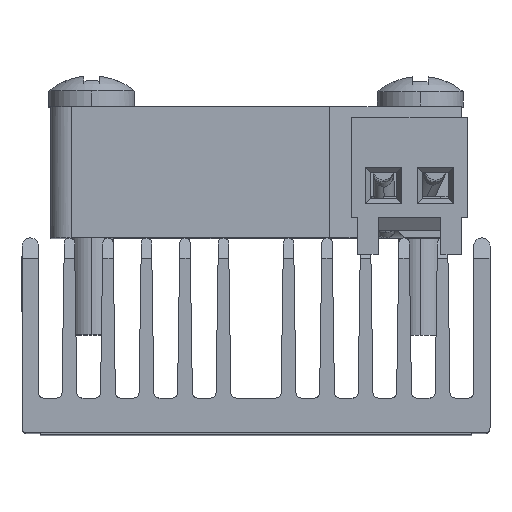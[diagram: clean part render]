
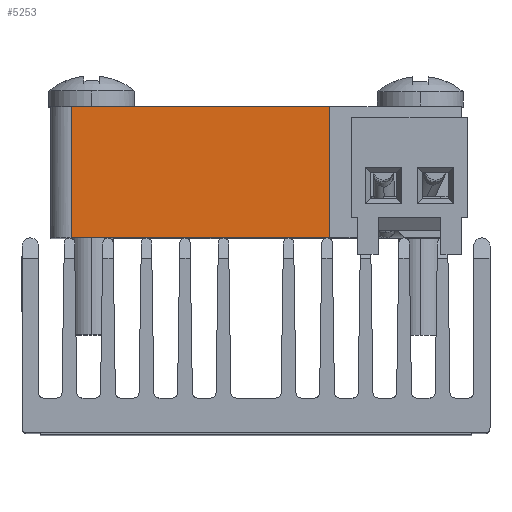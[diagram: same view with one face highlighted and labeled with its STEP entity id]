
A CAD part, top view. The second image highlights one B-rep face of the part: STEP entity #5253.
In plain terms, the highlighted planar face has unit normal (0, 0, 1).
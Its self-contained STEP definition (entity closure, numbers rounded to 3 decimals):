
#199 = DIRECTION ( 'NONE',  ( 0., 1., 0. ) ) ;
#1365 = DIRECTION ( 'NONE',  ( 0., -1., 0. ) ) ;
#1715 = EDGE_LOOP ( 'NONE', ( #2702, #8792, #2209, #15424 ) ) ;
#1769 = LINE ( 'NONE', #12831, #7639 ) ;
#2209 = ORIENTED_EDGE ( 'NONE', *, *, #14452, .F. ) ;
#2702 = ORIENTED_EDGE ( 'NONE', *, *, #12645, .F. ) ;
#3348 = CARTESIAN_POINT ( 'NONE',  ( -1.419, 6.153, 13.073 ) ) ;
#3404 = PLANE ( 'NONE',  #6548 ) ;
#4160 = VERTEX_POINT ( 'NONE', #7191 ) ;
#4242 = VERTEX_POINT ( 'NONE', #7632 ) ;
#4518 = VECTOR ( 'NONE', #17816, 1000. ) ;
#4782 = VECTOR ( 'NONE', #17589, 1000. ) ;
#4785 = CARTESIAN_POINT ( 'NONE',  ( 8.581, 12.553, 13.073 ) ) ;
#5253 = ADVANCED_FACE ( 'NONE', ( #6525 ), #3404, .F. ) ;
#6280 = VERTEX_POINT ( 'NONE', #13880 ) ;
#6525 = FACE_OUTER_BOUND ( 'NONE', #1715, .T. ) ;
#6548 = AXIS2_PLACEMENT_3D ( 'NONE', #9759, #8274, #1365 ) ;
#6915 = CARTESIAN_POINT ( 'NONE',  ( 2.181, 12.653, 13.073 ) ) ;
#7191 = CARTESIAN_POINT ( 'NONE',  ( -10.419, 12.553, 13.073 ) ) ;
#7632 = CARTESIAN_POINT ( 'NONE',  ( -10.419, 6.153, 13.073 ) ) ;
#7639 = VECTOR ( 'NONE', #199, 1000. ) ;
#8274 = DIRECTION ( 'NONE',  ( 0., 0., -1. ) ) ;
#8792 = ORIENTED_EDGE ( 'NONE', *, *, #10997, .F. ) ;
#9128 = LINE ( 'NONE', #4785, #4782 ) ;
#9759 = CARTESIAN_POINT ( 'NONE',  ( 8.581, 12.653, 13.073 ) ) ;
#10595 = VECTOR ( 'NONE', #12539, 1000. ) ;
#10997 = EDGE_CURVE ( 'NONE', #4242, #4160, #1769, .T. ) ;
#11393 = CARTESIAN_POINT ( 'NONE',  ( 2.181, 6.153, 13.073 ) ) ;
#12495 = LINE ( 'NONE', #3348, #4518 ) ;
#12539 = DIRECTION ( 'NONE',  ( 0., -1., 0. ) ) ;
#12645 = EDGE_CURVE ( 'NONE', #4160, #6280, #9128, .T. ) ;
#12831 = CARTESIAN_POINT ( 'NONE',  ( -10.419, 12.653, 13.073 ) ) ;
#13260 = EDGE_CURVE ( 'NONE', #6280, #16818, #17976, .T. ) ;
#13880 = CARTESIAN_POINT ( 'NONE',  ( 2.181, 12.553, 13.073 ) ) ;
#14452 = EDGE_CURVE ( 'NONE', #16818, #4242, #12495, .T. ) ;
#15424 = ORIENTED_EDGE ( 'NONE', *, *, #13260, .F. ) ;
#16818 = VERTEX_POINT ( 'NONE', #11393 ) ;
#17589 = DIRECTION ( 'NONE',  ( 1., 0., 0. ) ) ;
#17816 = DIRECTION ( 'NONE',  ( -1., 0., 0. ) ) ;
#17976 = LINE ( 'NONE', #6915, #10595 ) ;
